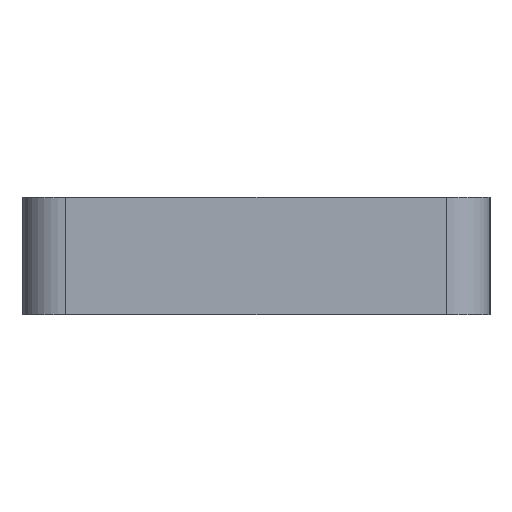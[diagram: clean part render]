
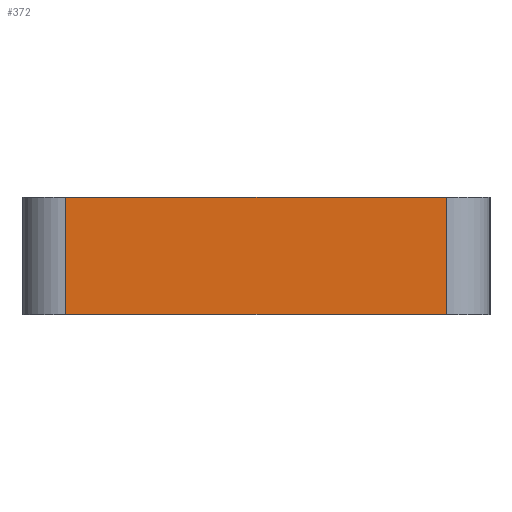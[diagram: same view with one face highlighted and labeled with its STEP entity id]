
A CAD part, left-side view. The second image highlights one B-rep face of the part: STEP entity #372.
In plain terms, the highlighted planar face has unit normal (-1, 0, 0).
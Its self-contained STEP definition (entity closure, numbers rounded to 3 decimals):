
#67=ORIENTED_EDGE('',*,*,#163,.F.);
#68=ORIENTED_EDGE('',*,*,#167,.T.);
#69=ORIENTED_EDGE('',*,*,#151,.T.);
#70=ORIENTED_EDGE('',*,*,#168,.T.);
#151=EDGE_CURVE('',#202,#203,#233,.T.);
#163=EDGE_CURVE('',#212,#213,#240,.T.);
#167=EDGE_CURVE('',#212,#202,#243,.T.);
#168=EDGE_CURVE('',#203,#213,#244,.F.);
#202=VERTEX_POINT('',#564);
#203=VERTEX_POINT('',#565);
#212=VERTEX_POINT('',#587);
#213=VERTEX_POINT('',#589);
#233=LINE('',#563,#273);
#240=LINE('',#588,#280);
#243=LINE('',#596,#283);
#244=LINE('',#597,#284);
#273=VECTOR('',#455,1000.);
#280=VECTOR('',#476,1000.);
#283=VECTOR('',#483,1000.);
#284=VECTOR('',#484,1000.);
#312=EDGE_LOOP('',(#67,#68,#69,#70));
#336=FACE_BOUND('',#312,.T.);
#358=PLANE('',#415);
#372=ADVANCED_FACE('',(#336),#358,.T.);
#415=AXIS2_PLACEMENT_3D('',#595,#481,#482);
#455=DIRECTION('',(0.,-1.,0.));
#476=DIRECTION('',(0.,-1.,0.));
#481=DIRECTION('',(-1.,0.,0.));
#482=DIRECTION('',(0.,0.,1.));
#483=DIRECTION('',(0.,0.,-1.));
#484=DIRECTION('',(0.,0.,-1.));
#563=CARTESIAN_POINT('',(-28.5,25.,-0.5));
#564=CARTESIAN_POINT('',(-28.5,19.,-0.5));
#565=CARTESIAN_POINT('',(-28.5,6.,-0.5));
#587=CARTESIAN_POINT('',(-28.5,19.,3.5));
#588=CARTESIAN_POINT('',(-28.5,25.,3.5));
#589=CARTESIAN_POINT('',(-28.5,6.,3.5));
#595=CARTESIAN_POINT('',(-28.5,25.,3.5));
#596=CARTESIAN_POINT('',(-28.5,19.,-3.5));
#597=CARTESIAN_POINT('',(-28.5,6.,3.5));
